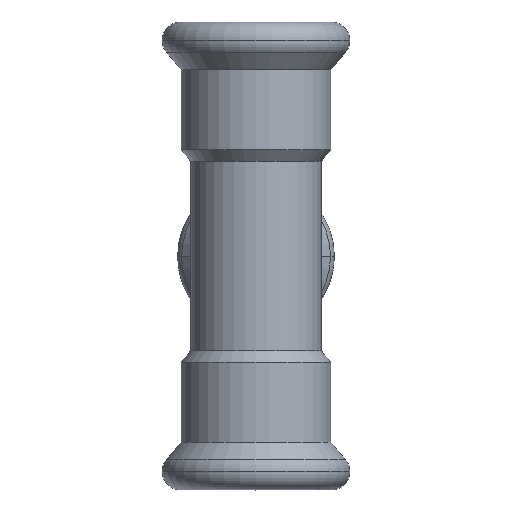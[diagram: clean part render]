
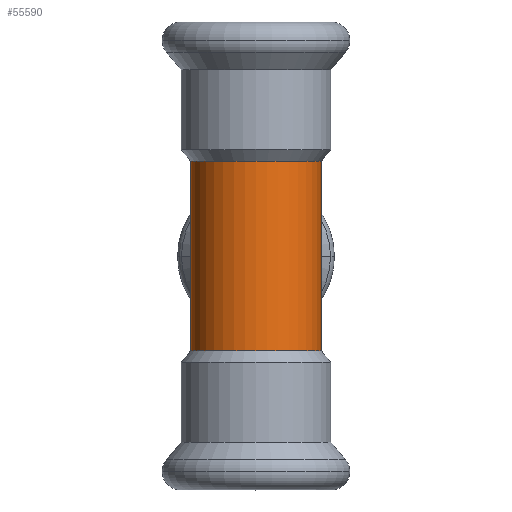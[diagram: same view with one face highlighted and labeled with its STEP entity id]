
A CAD part, top view. The second image highlights one B-rep face of the part: STEP entity #55590.
In plain terms, the highlighted cylindrical face has radius 11 mm (diameter 22 mm), a partial arc.
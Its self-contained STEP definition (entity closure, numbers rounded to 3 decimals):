
#11400=CARTESIAN_POINT('',(-202.976,22.621,16.));
#11410=DIRECTION('',(0.,0.,1.));
#11420=DIRECTION('',(-1.,0.,0.));
#11430=AXIS2_PLACEMENT_3D('',#11400,#11410,#11420);
#11440=CYLINDRICAL_SURFACE('',#11430,11.);
#19830=CARTESIAN_POINT('',(-191.976,22.621,16.));
#19840=DIRECTION('',(0.,0.,1.));
#19850=VECTOR('',#19840,1.);
#19860=LINE('',#19830,#19850);
#19870=CARTESIAN_POINT('',(-191.976,22.621,-16.));
#19880=VERTEX_POINT('',#19870);
#19890=CARTESIAN_POINT('',(-191.976,22.621,16.));
#19900=VERTEX_POINT('',#19890);
#19910=EDGE_CURVE('',#19880,#19900,#19860,.T.);
#19930=CARTESIAN_POINT('',(-202.976,22.621,16.));
#19940=DIRECTION('',(0.,0.,1.));
#19950=DIRECTION('',(1.,0.,0.));
#19960=AXIS2_PLACEMENT_3D('',#19930,#19940,#19950);
#19970=CIRCLE('',#19960,11.);
#19980=CARTESIAN_POINT('',(-213.976,22.621,16.));
#19990=VERTEX_POINT('',#19980);
#20020=CARTESIAN_POINT('',(-213.976,22.621,16.));
#20030=DIRECTION('',(0.,0.,1.));
#20040=VECTOR('',#20030,1.);
#20050=LINE('',#20020,#20040);
#20060=CARTESIAN_POINT('',(-213.976,22.621,-16.));
#20070=VERTEX_POINT('',#20060);
#20080=EDGE_CURVE('',#20070,#19990,#20050,.T.);
#20100=CARTESIAN_POINT('',(-202.976,22.621,-16.));
#20110=DIRECTION('',(0.,0.,1.));
#20120=DIRECTION('',(-1.,0.,0.));
#20130=AXIS2_PLACEMENT_3D('',#20100,#20110,#20120);
#20140=CIRCLE('',#20130,11.);
#54200=EDGE_CURVE('',#19990,#19900,#19970,.T.);
#55520=ORIENTED_EDGE('',*,*,#54200,.F.);
#55530=ORIENTED_EDGE('',*,*,#19910,.T.);
#55540=EDGE_CURVE('',#20070,#19880,#20140,.T.);
#55550=ORIENTED_EDGE('',*,*,#55540,.T.);
#55560=ORIENTED_EDGE('',*,*,#20080,.F.);
#55570=EDGE_LOOP('',(#55560,#55550,#55530,#55520));
#55580=FACE_OUTER_BOUND('',#55570,.T.);
#55590=ADVANCED_FACE('',(#55580),#11440,.T.);
